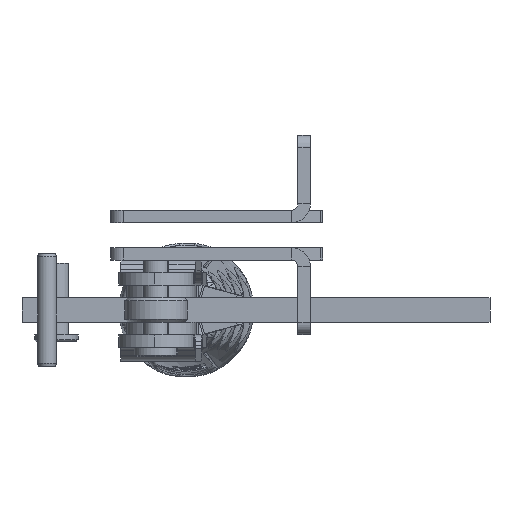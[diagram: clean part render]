
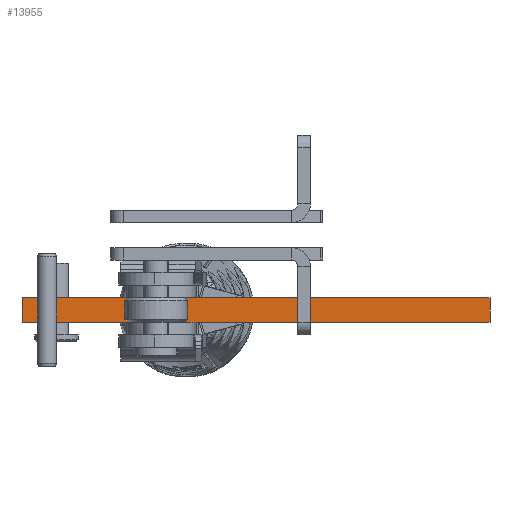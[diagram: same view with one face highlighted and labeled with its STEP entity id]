
A CAD part, front view. The second image highlights one B-rep face of the part: STEP entity #13955.
In plain terms, the highlighted planar face has unit normal (0, -1, 0).
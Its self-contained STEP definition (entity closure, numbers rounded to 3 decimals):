
#935 = CARTESIAN_POINT ( 'NONE',  ( 69.5, -5.5, 4. ) ) ;
#1185 = DIRECTION ( 'NONE',  ( 1., 0., 0. ) ) ;
#1251 = EDGE_CURVE ( 'NONE', #9536, #2401, #14329, .T. ) ;
#1322 = CARTESIAN_POINT ( 'NONE',  ( 69.5, -5.5, 0. ) ) ;
#1466 = PLANE ( 'NONE',  #9309 ) ;
#2401 = VERTEX_POINT ( 'NONE', #21633 ) ;
#3084 = CARTESIAN_POINT ( 'NONE',  ( 69.5, -5.5, 4. ) ) ;
#3716 = CARTESIAN_POINT ( 'NONE',  ( -5.5, -5.5, 4. ) ) ;
#4568 = ORIENTED_EDGE ( 'NONE', *, *, #1251, .F. ) ;
#5549 = ORIENTED_EDGE ( 'NONE', *, *, #24340, .T. ) ;
#5711 = FACE_OUTER_BOUND ( 'NONE', #21861, .T. ) ;
#9309 = AXIS2_PLACEMENT_3D ( 'NONE', #3084, #14638, #1185 ) ;
#9536 = VERTEX_POINT ( 'NONE', #13349 ) ;
#9576 = DIRECTION ( 'NONE',  ( 1., 0., 0. ) ) ;
#12307 = LINE ( 'NONE', #1322, #13980 ) ;
#12934 = VERTEX_POINT ( 'NONE', #28158 ) ;
#13349 = CARTESIAN_POINT ( 'NONE',  ( 69.5, -5.5, 4. ) ) ;
#13848 = VECTOR ( 'NONE', #20782, 1000. ) ;
#13955 = ADVANCED_FACE ( 'NONE', ( #5711 ), #1466, .F. ) ;
#13980 = VECTOR ( 'NONE', #19316, 1000. ) ;
#14017 = EDGE_CURVE ( 'NONE', #12934, #2401, #12307, .T. ) ;
#14329 = LINE ( 'NONE', #22981, #22158 ) ;
#14638 = DIRECTION ( 'NONE',  ( 0., 1., 0. ) ) ;
#18113 = VERTEX_POINT ( 'NONE', #3716 ) ;
#18476 = ORIENTED_EDGE ( 'NONE', *, *, #14017, .T. ) ;
#18930 = LINE ( 'NONE', #935, #22994 ) ;
#19316 = DIRECTION ( 'NONE',  ( 1., 0., 0. ) ) ;
#20782 = DIRECTION ( 'NONE',  ( 0., 0., -1. ) ) ;
#20920 = CARTESIAN_POINT ( 'NONE',  ( -5.5, -5.5, 4. ) ) ;
#21064 = LINE ( 'NONE', #20920, #13848 ) ;
#21633 = CARTESIAN_POINT ( 'NONE',  ( 69.5, -5.5, 0. ) ) ;
#21861 = EDGE_LOOP ( 'NONE', ( #18476, #4568, #24292, #5549 ) ) ;
#22158 = VECTOR ( 'NONE', #25176, 1000. ) ;
#22981 = CARTESIAN_POINT ( 'NONE',  ( 69.5, -5.5, 4. ) ) ;
#22994 = VECTOR ( 'NONE', #9576, 1000. ) ;
#24292 = ORIENTED_EDGE ( 'NONE', *, *, #28553, .F. ) ;
#24340 = EDGE_CURVE ( 'NONE', #18113, #12934, #21064, .T. ) ;
#25176 = DIRECTION ( 'NONE',  ( 0., 0., -1. ) ) ;
#28158 = CARTESIAN_POINT ( 'NONE',  ( -5.5, -5.5, 0. ) ) ;
#28553 = EDGE_CURVE ( 'NONE', #18113, #9536, #18930, .T. ) ;
